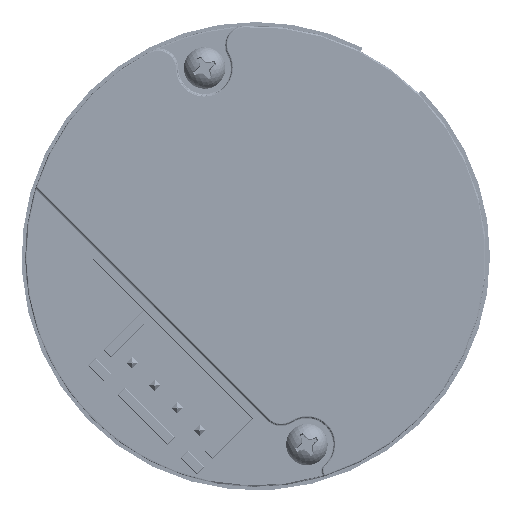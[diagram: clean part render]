
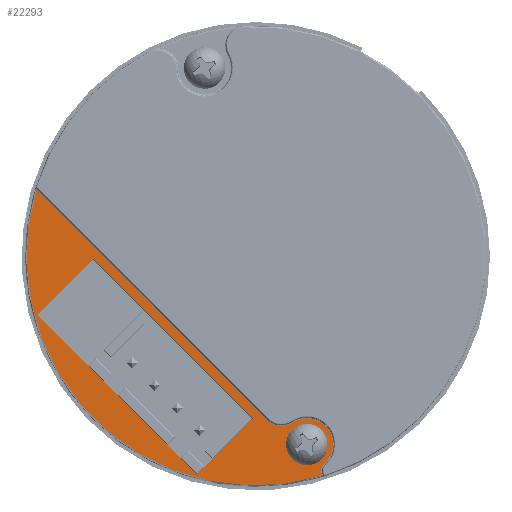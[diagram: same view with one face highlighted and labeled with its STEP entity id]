
A CAD part, front view. The second image highlights one B-rep face of the part: STEP entity #22293.
In plain terms, the highlighted planar face has unit normal (0, -1, 0) as drawn and (0, 0, 1) by its records, which use the part's own axes.
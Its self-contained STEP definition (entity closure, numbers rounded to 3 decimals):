
#893 = EDGE_LOOP ( 'NONE', ( #13561, #72234, #85128, #99423 ) ) ;
#1586 = EDGE_CURVE ( 'NONE', #115594, #111705, #151885, .T. ) ;
#2729 = EDGE_CURVE ( 'NONE', #24569, #41757, #52657, .T. ) ;
#4814 = EDGE_CURVE ( 'NONE', #108534, #119098, #25655, .T. ) ;
#8093 = CIRCLE ( 'NONE', #83943, 18.35 ) ;
#9078 = CIRCLE ( 'NONE', #81721, 2.09 ) ;
#13561 = ORIENTED_EDGE ( 'NONE', *, *, #2729, .T. ) ;
#13716 = EDGE_CURVE ( 'NONE', #111705, #23434, #31607, .T. ) ;
#15851 = DIRECTION ( 'NONE',  ( 0., -1., 0. ) ) ;
#17420 = VECTOR ( 'NONE', #28878, 1000. ) ;
#22160 = VERTEX_POINT ( 'NONE', #45232 ) ;
#22293 = ADVANCED_FACE ( 'NONE', ( #102265, #39841, #149950 ), #142668, .T. ) ;
#22839 = CARTESIAN_POINT ( 'NONE',  ( 9.02, -9.35, -6.45 ) ) ;
#23175 = CARTESIAN_POINT ( 'NONE',  ( -9.02, -15.69, -6.45 ) ) ;
#23434 = VERTEX_POINT ( 'NONE', #121568 ) ;
#23733 = LINE ( 'NONE', #81539, #82481 ) ;
#24569 = VERTEX_POINT ( 'NONE', #110427 ) ;
#25655 = CIRCLE ( 'NONE', #134310, 0.715 ) ;
#27192 = EDGE_CURVE ( 'NONE', #22160, #121994, #72236, .T. ) ;
#28257 = ORIENTED_EDGE ( 'NONE', *, *, #51166, .F. ) ;
#28489 = EDGE_CURVE ( 'NONE', #119098, #115594, #9078, .T. ) ;
#28878 = DIRECTION ( 'NONE',  ( 1., 0., 0. ) ) ;
#30398 = VERTEX_POINT ( 'NONE', #46283 ) ;
#31607 = CIRCLE ( 'NONE', #75143, 1.629 ) ;
#31638 = DIRECTION ( 'NONE',  ( -1., 0., 0. ) ) ;
#33733 = CARTESIAN_POINT ( 'NONE',  ( 13.55, -6.261, -6.45 ) ) ;
#35885 = DIRECTION ( 'NONE',  ( 0., 1., 0. ) ) ;
#36965 = DIRECTION ( 'NONE',  ( 0., 0., 1. ) ) ;
#39841 = FACE_BOUND ( 'NONE', #893, .T. ) ;
#39979 = EDGE_LOOP ( 'NONE', ( #78722, #28257 ) ) ;
#41757 = VERTEX_POINT ( 'NONE', #23175 ) ;
#44321 = DIRECTION ( 'NONE',  ( 1., 0., 0. ) ) ;
#45232 = CARTESIAN_POINT ( 'NONE',  ( 13.55, -9.261, -6.45 ) ) ;
#46283 = CARTESIAN_POINT ( 'NONE',  ( -16.183, -8.65, -6.45 ) ) ;
#46394 = LINE ( 'NONE', #51268, #134418 ) ;
#48070 = CARTESIAN_POINT ( 'NONE',  ( 15.636, -7.891, -6.45 ) ) ;
#51166 = EDGE_CURVE ( 'NONE', #121994, #22160, #124005, .T. ) ;
#51268 = CARTESIAN_POINT ( 'NONE',  ( 9.02, -15.67, -6.45 ) ) ;
#51714 = DIRECTION ( 'NONE',  ( 1., 0., 0. ) ) ;
#52335 = LINE ( 'NONE', #123334, #17420 ) ;
#52657 = LINE ( 'NONE', #53734, #91232 ) ;
#53403 = CARTESIAN_POINT ( 'NONE',  ( -9.02, -9.35, -6.45 ) ) ;
#53734 = CARTESIAN_POINT ( 'NONE',  ( -9., -15.69, -6.45 ) ) ;
#54173 = EDGE_CURVE ( 'NONE', #30398, #108534, #8093, .T. ) ;
#55381 = AXIS2_PLACEMENT_3D ( 'NONE', #86193, #36965, #15851 ) ;
#57012 = VERTEX_POINT ( 'NONE', #53403 ) ;
#61584 = DIRECTION ( 'NONE',  ( 0., -1., 0. ) ) ;
#62923 = LINE ( 'NONE', #89137, #72019 ) ;
#68373 = VERTEX_POINT ( 'NONE', #22839 ) ;
#69329 = CARTESIAN_POINT ( 'NONE',  ( 16.193, -8.633, -6.45 ) ) ;
#69506 = DIRECTION ( 'NONE',  ( 1., 0., 0. ) ) ;
#72019 = VECTOR ( 'NONE', #31638, 1000. ) ;
#72234 = ORIENTED_EDGE ( 'NONE', *, *, #74377, .T. ) ;
#72236 = CIRCLE ( 'NONE', #129866, 1.5 ) ;
#74377 = EDGE_CURVE ( 'NONE', #41757, #57012, #23733, .T. ) ;
#75143 = AXIS2_PLACEMENT_3D ( 'NONE', #77860, #122042, #51714 ) ;
#77809 = DIRECTION ( 'NONE',  ( 1., 0., 0. ) ) ;
#77860 = CARTESIAN_POINT ( 'NONE',  ( 9.905, -7.021, -6.45 ) ) ;
#78722 = ORIENTED_EDGE ( 'NONE', *, *, #27192, .F. ) ;
#79019 = DIRECTION ( 'NONE',  ( 0., 0., 1. ) ) ;
#79108 = CARTESIAN_POINT ( 'NONE',  ( 13.55, -7.761, -6.45 ) ) ;
#81539 = CARTESIAN_POINT ( 'NONE',  ( -9.02, -9.37, -6.45 ) ) ;
#81721 = AXIS2_PLACEMENT_3D ( 'NONE', #103412, #104911, #69506 ) ;
#82481 = VECTOR ( 'NONE', #35885, 1000. ) ;
#83943 = AXIS2_PLACEMENT_3D ( 'NONE', #112492, #79019, #100659 ) ;
#85128 = ORIENTED_EDGE ( 'NONE', *, *, #111526, .T. ) ;
#85604 = DIRECTION ( 'NONE',  ( 0., 0., 1. ) ) ;
#86193 = CARTESIAN_POINT ( 'NONE',  ( 0., 0., -6.45 ) ) ;
#89137 = CARTESIAN_POINT ( 'NONE',  ( -16.349, -8.65, -6.45 ) ) ;
#91230 = ORIENTED_EDGE ( 'NONE', *, *, #28489, .T. ) ;
#91232 = VECTOR ( 'NONE', #136824, 1000. ) ;
#91409 = ORIENTED_EDGE ( 'NONE', *, *, #102997, .T. ) ;
#99423 = ORIENTED_EDGE ( 'NONE', *, *, #116101, .T. ) ;
#100443 = CARTESIAN_POINT ( 'NONE',  ( 16.349, -7.935, -6.45 ) ) ;
#100659 = DIRECTION ( 'NONE',  ( 1., 0., 0. ) ) ;
#101315 = DIRECTION ( 'NONE',  ( 0., 0., 1. ) ) ;
#102265 = FACE_OUTER_BOUND ( 'NONE', #110341, .T. ) ;
#102997 = EDGE_CURVE ( 'NONE', #23434, #30398, #62923, .T. ) ;
#103412 = CARTESIAN_POINT ( 'NONE',  ( 13.55, -7.761, -6.45 ) ) ;
#104911 = DIRECTION ( 'NONE',  ( 0., 0., 1. ) ) ;
#108534 = VERTEX_POINT ( 'NONE', #69329 ) ;
#110341 = EDGE_LOOP ( 'NONE', ( #111215, #91230, #124184, #145327, #91409, #128084 ) ) ;
#110427 = CARTESIAN_POINT ( 'NONE',  ( 9.02, -15.69, -6.45 ) ) ;
#111215 = ORIENTED_EDGE ( 'NONE', *, *, #4814, .T. ) ;
#111526 = EDGE_CURVE ( 'NONE', #57012, #68373, #52335, .T. ) ;
#111705 = VERTEX_POINT ( 'NONE', #122434 ) ;
#112492 = CARTESIAN_POINT ( 'NONE',  ( 0., 0., -6.45 ) ) ;
#112784 = DIRECTION ( 'NONE',  ( 0., 0., -1. ) ) ;
#115594 = VERTEX_POINT ( 'NONE', #149942 ) ;
#116101 = EDGE_CURVE ( 'NONE', #68373, #24569, #46394, .T. ) ;
#119098 = VERTEX_POINT ( 'NONE', #48070 ) ;
#120544 = CARTESIAN_POINT ( 'NONE',  ( 13.55, -7.761, -6.45 ) ) ;
#121568 = CARTESIAN_POINT ( 'NONE',  ( 9.905, -8.65, -6.45 ) ) ;
#121994 = VERTEX_POINT ( 'NONE', #33733 ) ;
#122042 = DIRECTION ( 'NONE',  ( 0., 0., -1. ) ) ;
#122434 = CARTESIAN_POINT ( 'NONE',  ( 11.502, -7.345, -6.45 ) ) ;
#123334 = CARTESIAN_POINT ( 'NONE',  ( 9., -9.35, -6.45 ) ) ;
#124005 = CIRCLE ( 'NONE', #124006, 1.5 ) ;
#124006 = AXIS2_PLACEMENT_3D ( 'NONE', #120544, #85604, #145108 ) ;
#124184 = ORIENTED_EDGE ( 'NONE', *, *, #1586, .T. ) ;
#124228 = AXIS2_PLACEMENT_3D ( 'NONE', #138718, #101315, #44321 ) ;
#128084 = ORIENTED_EDGE ( 'NONE', *, *, #54173, .T. ) ;
#129866 = AXIS2_PLACEMENT_3D ( 'NONE', #79108, #142782, #130973 ) ;
#130973 = DIRECTION ( 'NONE',  ( 0., -1., 0. ) ) ;
#134310 = AXIS2_PLACEMENT_3D ( 'NONE', #100443, #112784, #77809 ) ;
#134418 = VECTOR ( 'NONE', #61584, 1000. ) ;
#136824 = DIRECTION ( 'NONE',  ( -1., 0., 0. ) ) ;
#138718 = CARTESIAN_POINT ( 'NONE',  ( 13.55, -7.761, -6.45 ) ) ;
#142668 = PLANE ( 'NONE',  #55381 ) ;
#142782 = DIRECTION ( 'NONE',  ( 0., 0., 1. ) ) ;
#145108 = DIRECTION ( 'NONE',  ( 0., -1., 0. ) ) ;
#145327 = ORIENTED_EDGE ( 'NONE', *, *, #13716, .T. ) ;
#149942 = CARTESIAN_POINT ( 'NONE',  ( 15.64, -7.761, -6.45 ) ) ;
#149950 = FACE_BOUND ( 'NONE', #39979, .T. ) ;
#151885 = CIRCLE ( 'NONE', #124228, 2.09 ) ;
